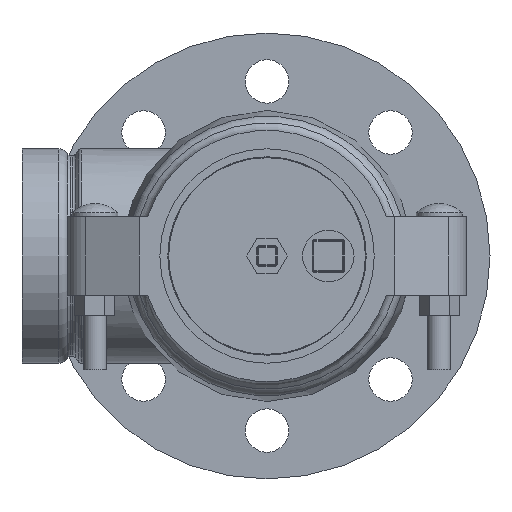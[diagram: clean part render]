
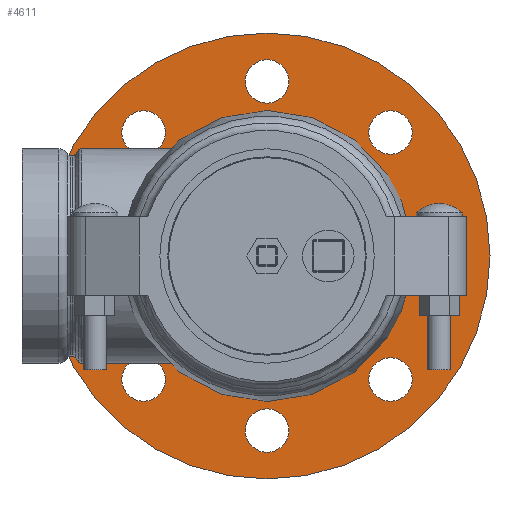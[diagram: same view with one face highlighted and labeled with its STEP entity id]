
A CAD part, left-side view. The second image highlights one B-rep face of the part: STEP entity #4611.
In plain terms, the highlighted planar face has unit normal (-1, 0, 0).
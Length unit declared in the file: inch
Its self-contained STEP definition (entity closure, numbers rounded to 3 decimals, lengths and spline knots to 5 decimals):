
#114=FACE_BOUND('',#1671,.T.);
#115=FACE_BOUND('',#1672,.T.);
#116=FACE_BOUND('',#1673,.T.);
#117=FACE_BOUND('',#1674,.T.);
#118=FACE_BOUND('',#1675,.T.);
#119=FACE_BOUND('',#1676,.T.);
#120=FACE_BOUND('',#1677,.T.);
#121=FACE_BOUND('',#1678,.T.);
#122=FACE_BOUND('',#1679,.T.);
#203=PLANE('',#5314);
#561=CIRCLE('',#5230,0.355);
#563=CIRCLE('',#5233,0.355);
#565=CIRCLE('',#5236,0.355);
#567=CIRCLE('',#5239,0.355);
#569=CIRCLE('',#5242,0.355);
#571=CIRCLE('',#5245,0.355);
#573=CIRCLE('',#5248,0.355);
#575=CIRCLE('',#5251,0.355);
#622=CIRCLE('',#5312,2.23603);
#623=CIRCLE('',#5313,2.23603);
#624=CIRCLE('',#5315,3.64);
#625=CIRCLE('',#5316,3.64);
#1414=FACE_OUTER_BOUND('',#1670,.T.);
#1670=EDGE_LOOP('',(#4048,#4049));
#1671=EDGE_LOOP('',(#4050));
#1672=EDGE_LOOP('',(#4051));
#1673=EDGE_LOOP('',(#4052));
#1674=EDGE_LOOP('',(#4053));
#1675=EDGE_LOOP('',(#4054));
#1676=EDGE_LOOP('',(#4055));
#1677=EDGE_LOOP('',(#4056));
#1678=EDGE_LOOP('',(#4057));
#1679=EDGE_LOOP('',(#4058,#4059));
#2080=VERTEX_POINT('',#8448);
#2082=VERTEX_POINT('',#8454);
#2084=VERTEX_POINT('',#8460);
#2086=VERTEX_POINT('',#8466);
#2088=VERTEX_POINT('',#8472);
#2090=VERTEX_POINT('',#8478);
#2092=VERTEX_POINT('',#8484);
#2094=VERTEX_POINT('',#8490);
#2134=VERTEX_POINT('',#8597);
#2135=VERTEX_POINT('',#8599);
#2136=VERTEX_POINT('',#8603);
#2137=VERTEX_POINT('',#8604);
#2712=EDGE_CURVE('',#2080,#2080,#561,.T.);
#2715=EDGE_CURVE('',#2082,#2082,#563,.T.);
#2718=EDGE_CURVE('',#2084,#2084,#565,.T.);
#2721=EDGE_CURVE('',#2086,#2086,#567,.T.);
#2724=EDGE_CURVE('',#2088,#2088,#569,.T.);
#2727=EDGE_CURVE('',#2090,#2090,#571,.T.);
#2730=EDGE_CURVE('',#2092,#2092,#573,.T.);
#2733=EDGE_CURVE('',#2094,#2094,#575,.T.);
#2786=EDGE_CURVE('',#2135,#2134,#622,.T.);
#2787=EDGE_CURVE('',#2134,#2135,#623,.T.);
#2788=EDGE_CURVE('',#2136,#2137,#624,.T.);
#2789=EDGE_CURVE('',#2137,#2136,#625,.T.);
#4048=ORIENTED_EDGE('',*,*,#2788,.F.);
#4049=ORIENTED_EDGE('',*,*,#2789,.F.);
#4050=ORIENTED_EDGE('',*,*,#2712,.T.);
#4051=ORIENTED_EDGE('',*,*,#2715,.T.);
#4052=ORIENTED_EDGE('',*,*,#2718,.T.);
#4053=ORIENTED_EDGE('',*,*,#2721,.T.);
#4054=ORIENTED_EDGE('',*,*,#2724,.T.);
#4055=ORIENTED_EDGE('',*,*,#2727,.T.);
#4056=ORIENTED_EDGE('',*,*,#2730,.T.);
#4057=ORIENTED_EDGE('',*,*,#2733,.T.);
#4058=ORIENTED_EDGE('',*,*,#2786,.T.);
#4059=ORIENTED_EDGE('',*,*,#2787,.T.);
#4611=ADVANCED_FACE('',(#1414,#114,#115,#116,#117,#118,#119,#120,#121,#122),
#203,.T.);
#5230=AXIS2_PLACEMENT_3D('',#8450,#6572,#6573);
#5233=AXIS2_PLACEMENT_3D('',#8456,#6579,#6580);
#5236=AXIS2_PLACEMENT_3D('',#8462,#6586,#6587);
#5239=AXIS2_PLACEMENT_3D('',#8468,#6593,#6594);
#5242=AXIS2_PLACEMENT_3D('',#8474,#6600,#6601);
#5245=AXIS2_PLACEMENT_3D('',#8480,#6607,#6608);
#5248=AXIS2_PLACEMENT_3D('',#8486,#6614,#6615);
#5251=AXIS2_PLACEMENT_3D('',#8492,#6621,#6622);
#5312=AXIS2_PLACEMENT_3D('',#8600,#6749,#6750);
#5313=AXIS2_PLACEMENT_3D('',#8601,#6751,#6752);
#5314=AXIS2_PLACEMENT_3D('',#8602,#6753,#6754);
#5315=AXIS2_PLACEMENT_3D('',#8605,#6755,#6756);
#5316=AXIS2_PLACEMENT_3D('',#8606,#6757,#6758);
#6572=DIRECTION('center_axis',(1.,0.,0.));
#6573=DIRECTION('ref_axis',(0.,0.707,0.707));
#6579=DIRECTION('center_axis',(1.,0.,0.));
#6580=DIRECTION('ref_axis',(0.,1.,0.));
#6586=DIRECTION('center_axis',(1.,0.,0.));
#6587=DIRECTION('ref_axis',(0.,0.707,-0.707));
#6593=DIRECTION('center_axis',(1.,0.,0.));
#6594=DIRECTION('ref_axis',(0.,0.,-1.));
#6600=DIRECTION('center_axis',(1.,0.,0.));
#6601=DIRECTION('ref_axis',(0.,-0.707,-0.707));
#6607=DIRECTION('center_axis',(1.,0.,0.));
#6608=DIRECTION('ref_axis',(0.,-1.,0.));
#6614=DIRECTION('center_axis',(1.,0.,0.));
#6615=DIRECTION('ref_axis',(0.,-0.707,0.707));
#6621=DIRECTION('center_axis',(1.,0.,0.));
#6622=DIRECTION('ref_axis',(0.,0.,1.));
#6749=DIRECTION('center_axis',(1.,0.,0.));
#6750=DIRECTION('ref_axis',(0.,0.,-1.));
#6751=DIRECTION('center_axis',(1.,0.,0.));
#6752=DIRECTION('ref_axis',(0.,0.,-1.));
#6753=DIRECTION('center_axis',(-1.,0.,0.));
#6754=DIRECTION('ref_axis',(0.,0.,1.));
#6755=DIRECTION('center_axis',(1.,0.,0.));
#6756=DIRECTION('ref_axis',(0.,0.,-1.));
#6757=DIRECTION('center_axis',(1.,0.,0.));
#6758=DIRECTION('ref_axis',(0.,0.,-1.));
#8448=CARTESIAN_POINT('',(1.4,1.76423,-2.26628));
#8450=CARTESIAN_POINT('Origin',(1.4,2.01525,-2.01525));
#8454=CARTESIAN_POINT('',(1.4,-0.355,-2.85));
#8456=CARTESIAN_POINT('Origin',(1.4,0.,-2.85));
#8460=CARTESIAN_POINT('',(1.4,-2.26628,-1.76423));
#8462=CARTESIAN_POINT('Origin',(1.4,-2.01525,-2.01525));
#8466=CARTESIAN_POINT('',(1.4,-2.85,0.355));
#8468=CARTESIAN_POINT('Origin',(1.4,-2.85,0.));
#8472=CARTESIAN_POINT('',(1.4,-1.76423,2.26628));
#8474=CARTESIAN_POINT('Origin',(1.4,-2.01525,2.01525));
#8478=CARTESIAN_POINT('',(1.4,0.355,2.85));
#8480=CARTESIAN_POINT('Origin',(1.4,0.,2.85));
#8484=CARTESIAN_POINT('',(1.4,2.26628,1.76423));
#8486=CARTESIAN_POINT('Origin',(1.4,2.01525,2.01525));
#8490=CARTESIAN_POINT('',(1.4,2.85,-0.355));
#8492=CARTESIAN_POINT('Origin',(1.4,2.85,0.));
#8597=CARTESIAN_POINT('',(1.4,0.,2.23603));
#8599=CARTESIAN_POINT('',(1.4,2.23603,0.));
#8600=CARTESIAN_POINT('Origin',(1.4,0.,0.));
#8601=CARTESIAN_POINT('Origin',(1.4,0.,0.));
#8602=CARTESIAN_POINT('Origin',(1.4,3.64,0.));
#8603=CARTESIAN_POINT('',(1.4,3.64,0.));
#8604=CARTESIAN_POINT('',(1.4,-3.64,0.));
#8605=CARTESIAN_POINT('Origin',(1.4,0.,0.));
#8606=CARTESIAN_POINT('Origin',(1.4,0.,0.));
